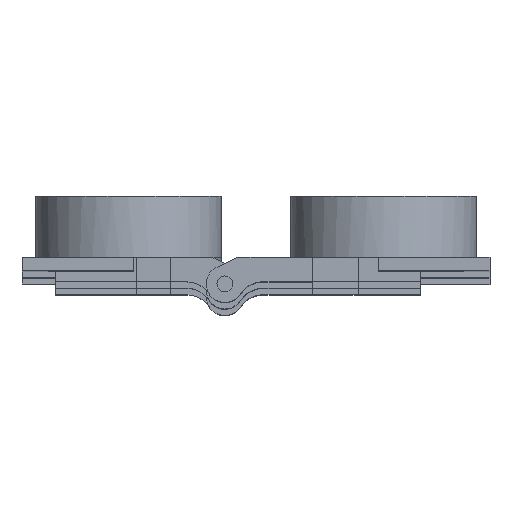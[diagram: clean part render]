
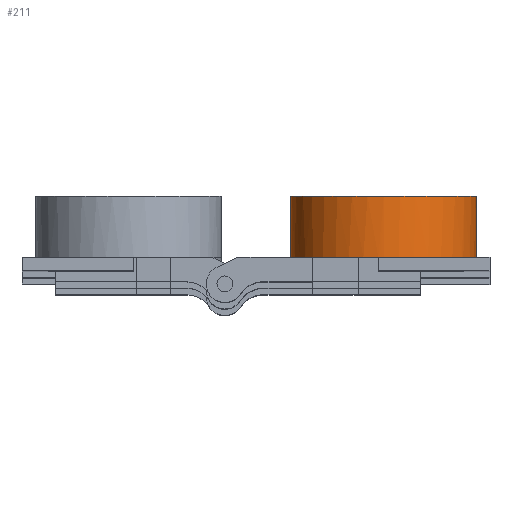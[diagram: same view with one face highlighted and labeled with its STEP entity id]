
A CAD part, top view. The second image highlights one B-rep face of the part: STEP entity #211.
In plain terms, the highlighted cylindrical face has radius 17.5 mm (diameter 35 mm), a full revolution.
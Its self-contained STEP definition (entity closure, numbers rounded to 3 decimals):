
#211 = ADVANCED_FACE( '', ( #447, #448 ), #449, .T. );
#447 = FACE_OUTER_BOUND( '', #724, .T. );
#448 = FACE_OUTER_BOUND( '', #725, .T. );
#449 = CYLINDRICAL_SURFACE( '', #726, 17.5 );
#724 = EDGE_LOOP( '', ( #1171 ) );
#725 = EDGE_LOOP( '', ( #1172, #1173, #1174, #1175, #1176, #1177, #1178, #1179, #1180, #1181 ) );
#726 = AXIS2_PLACEMENT_3D( '', #1182, #1183, #1184 );
#1171 = ORIENTED_EDGE( '', *, *, #1750, .F. );
#1172 = ORIENTED_EDGE( '', *, *, #1754, .T. );
#1173 = ORIENTED_EDGE( '', *, *, #1755, .T. );
#1174 = ORIENTED_EDGE( '', *, *, #1756, .T. );
#1175 = ORIENTED_EDGE( '', *, *, #1679, .T. );
#1176 = ORIENTED_EDGE( '', *, *, #1757, .T. );
#1177 = ORIENTED_EDGE( '', *, *, #1687, .T. );
#1178 = ORIENTED_EDGE( '', *, *, #1758, .T. );
#1179 = ORIENTED_EDGE( '', *, *, #1685, .T. );
#1180 = ORIENTED_EDGE( '', *, *, #1759, .T. );
#1181 = ORIENTED_EDGE( '', *, *, #1683, .T. );
#1182 = CARTESIAN_POINT( '', ( 24., 50., 0. ) );
#1183 = DIRECTION( '', ( 0., -1., 0. ) );
#1184 = DIRECTION( '', ( 0., 0., 1. ) );
#1679 = EDGE_CURVE( '', #2024, #2025, #2026, .T. );
#1683 = EDGE_CURVE( '', #1912, #2029, #2031, .T. );
#1685 = EDGE_CURVE( '', #2034, #2032, #2035, .T. );
#1687 = EDGE_CURVE( '', #2038, #2036, #2039, .T. );
#1750 = EDGE_CURVE( '', #2131, #2131, #2132, .T. );
#1754 = EDGE_CURVE( '', #2029, #1923, #2137, .T. );
#1755 = EDGE_CURVE( '', #1923, #1925, #2138, .T. );
#1756 = EDGE_CURVE( '', #1925, #2024, #2139, .T. );
#1757 = EDGE_CURVE( '', #2025, #2038, #2140, .T. );
#1758 = EDGE_CURVE( '', #2036, #2034, #2141, .T. );
#1759 = EDGE_CURVE( '', #2032, #1912, #2142, .T. );
#1912 = VERTEX_POINT( '', #2340 );
#1923 = VERTEX_POINT( '', #2356 );
#1925 = VERTEX_POINT( '', #2358 );
#2024 = VERTEX_POINT( '', #2489 );
#2025 = VERTEX_POINT( '', #2490 );
#2026 = CIRCLE( '', #2491, 17.5 );
#2029 = VERTEX_POINT( '', #2496 );
#2031 = CIRCLE( '', #2499, 17.5 );
#2032 = VERTEX_POINT( '', #2500 );
#2034 = VERTEX_POINT( '', #2503 );
#2035 = CIRCLE( '', #2504, 17.5 );
#2036 = VERTEX_POINT( '', #2505 );
#2038 = VERTEX_POINT( '', #2508 );
#2039 = CIRCLE( '', #2509, 17.5 );
#2131 = VERTEX_POINT( '', #2638 );
#2132 = CIRCLE( '', #2639, 17.5 );
#2137 = CIRCLE( '', #2644, 17.5 );
#2138 = CIRCLE( '', #2645, 17.5 );
#2139 = CIRCLE( '', #2646, 17.5 );
#2140 = CIRCLE( '', #2647, 17.5 );
#2141 = CIRCLE( '', #2648, 17.5 );
#2142 = CIRCLE( '', #2649, 17.5 );
#2340 = CARTESIAN_POINT( '', ( 23., 0., -17.471 ) );
#2356 = CARTESIAN_POINT( '', ( 6.728, 0., -2.815 ) );
#2358 = CARTESIAN_POINT( '', ( 6.728, 0., 2.815 ) );
#2489 = CARTESIAN_POINT( '', ( 10.65, 0., 11.315 ) );
#2490 = CARTESIAN_POINT( '', ( 23., 0., 17.471 ) );
#2491 = AXIS2_PLACEMENT_3D( '', #2938, #2939, #2940 );
#2496 = CARTESIAN_POINT( '', ( 10.65, 0., -11.315 ) );
#2499 = AXIS2_PLACEMENT_3D( '', #2944, #2945, #2946 );
#2500 = CARTESIAN_POINT( '', ( 38.697, 0., -9.5 ) );
#2503 = CARTESIAN_POINT( '', ( 39., 0., -9.014 ) );
#2504 = AXIS2_PLACEMENT_3D( '', #2948, #2949, #2950 );
#2505 = CARTESIAN_POINT( '', ( 39., 0., 9.014 ) );
#2508 = CARTESIAN_POINT( '', ( 38.697, 0., 9.5 ) );
#2509 = AXIS2_PLACEMENT_3D( '', #2952, #2953, #2954 );
#2638 = CARTESIAN_POINT( '', ( 24., 11.5, 17.5 ) );
#2639 = AXIS2_PLACEMENT_3D( '', #3019, #3020, #3021 );
#2644 = AXIS2_PLACEMENT_3D( '', #3025, #3026, #3027 );
#2645 = AXIS2_PLACEMENT_3D( '', #3028, #3029, #3030 );
#2646 = AXIS2_PLACEMENT_3D( '', #3031, #3032, #3033 );
#2647 = AXIS2_PLACEMENT_3D( '', #3034, #3035, #3036 );
#2648 = AXIS2_PLACEMENT_3D( '', #3037, #3038, #3039 );
#2649 = AXIS2_PLACEMENT_3D( '', #3040, #3041, #3042 );
#2938 = CARTESIAN_POINT( '', ( 24., 0., 0. ) );
#2939 = DIRECTION( '', ( 0., 1., 0. ) );
#2940 = DIRECTION( '', ( 0., 0., 1. ) );
#2944 = CARTESIAN_POINT( '', ( 24., 0., 0. ) );
#2945 = DIRECTION( '', ( 0., 1., 0. ) );
#2946 = DIRECTION( '', ( 0., 0., 1. ) );
#2948 = CARTESIAN_POINT( '', ( 24., 0., 0. ) );
#2949 = DIRECTION( '', ( 0., 1., 0. ) );
#2950 = DIRECTION( '', ( 0., 0., 1. ) );
#2952 = CARTESIAN_POINT( '', ( 24., 0., 0. ) );
#2953 = DIRECTION( '', ( 0., 1., 0. ) );
#2954 = DIRECTION( '', ( 0., 0., 1. ) );
#3019 = CARTESIAN_POINT( '', ( 24., 11.5, 0. ) );
#3020 = DIRECTION( '', ( 0., 1., 0. ) );
#3021 = DIRECTION( '', ( 0., 0., 1. ) );
#3025 = CARTESIAN_POINT( '', ( 24., 0., 0. ) );
#3026 = DIRECTION( '', ( 0., 1., 0. ) );
#3027 = DIRECTION( '', ( 0., 0., 1. ) );
#3028 = CARTESIAN_POINT( '', ( 24., 0., 0. ) );
#3029 = DIRECTION( '', ( 0., 1., 0. ) );
#3030 = DIRECTION( '', ( 0., 0., 1. ) );
#3031 = CARTESIAN_POINT( '', ( 24., 0., 0. ) );
#3032 = DIRECTION( '', ( 0., 1., 0. ) );
#3033 = DIRECTION( '', ( 0., 0., 1. ) );
#3034 = CARTESIAN_POINT( '', ( 24., 0., 0. ) );
#3035 = DIRECTION( '', ( 0., 1., 0. ) );
#3036 = DIRECTION( '', ( 0., 0., 1. ) );
#3037 = CARTESIAN_POINT( '', ( 24., 0., 0. ) );
#3038 = DIRECTION( '', ( 0., 1., 0. ) );
#3039 = DIRECTION( '', ( 0., 0., 1. ) );
#3040 = CARTESIAN_POINT( '', ( 24., 0., 0. ) );
#3041 = DIRECTION( '', ( 0., 1., 0. ) );
#3042 = DIRECTION( '', ( 0., 0., 1. ) );
